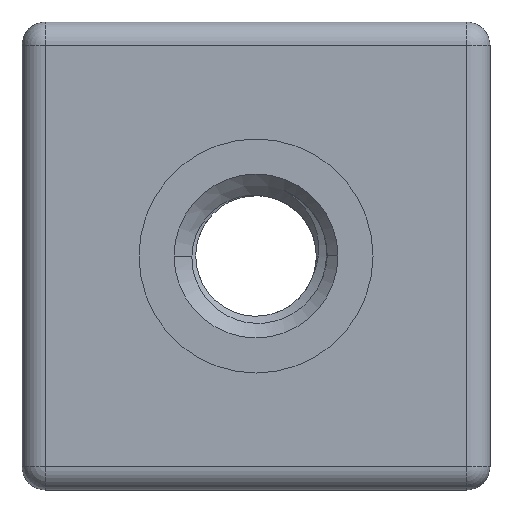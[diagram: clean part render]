
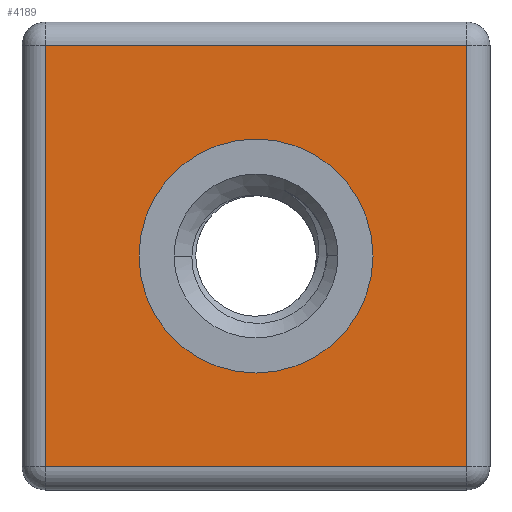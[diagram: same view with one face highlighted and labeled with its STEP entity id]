
A CAD part, front view. The second image highlights one B-rep face of the part: STEP entity #4189.
In plain terms, the highlighted planar face has unit normal (0, -1, 0).
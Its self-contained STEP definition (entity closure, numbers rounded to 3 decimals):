
#4 = AXIS2_PLACEMENT_3D ( 'NONE', #4763, #780, #1435 ) ;
#180 = VECTOR ( 'NONE', #2698, 1000. ) ;
#181 = LINE ( 'NONE', #1376, #4281 ) ;
#210 = ORIENTED_EDGE ( 'NONE', *, *, #4253, .T. ) ;
#243 = VECTOR ( 'NONE', #2050, 1000. ) ;
#530 = ORIENTED_EDGE ( 'NONE', *, *, #1928, .T. ) ;
#571 = CARTESIAN_POINT ( 'NONE',  ( -18., 0., -20. ) ) ;
#591 = EDGE_CURVE ( 'NONE', #1921, #2014, #3445, .T. ) ;
#641 = EDGE_CURVE ( 'NONE', #2535, #3560, #2278, .T. ) ;
#780 = DIRECTION ( 'NONE',  ( 0., 1., 0. ) ) ;
#1098 = CARTESIAN_POINT ( 'NONE',  ( -18., 0., -18. ) ) ;
#1217 = EDGE_CURVE ( 'NONE', #2014, #1921, #3029, .T. ) ;
#1271 = AXIS2_PLACEMENT_3D ( 'NONE', #4154, #4590, #1607 ) ;
#1376 = CARTESIAN_POINT ( 'NONE',  ( 20., 0., -18. ) ) ;
#1435 = DIRECTION ( 'NONE',  ( 0., 0., -1. ) ) ;
#1516 = CARTESIAN_POINT ( 'NONE',  ( 18., 0., 18. ) ) ;
#1606 = EDGE_CURVE ( 'NONE', #3560, #2157, #2846, .T. ) ;
#1607 = DIRECTION ( 'NONE',  ( 0., 0., -1. ) ) ;
#1653 = AXIS2_PLACEMENT_3D ( 'NONE', #4100, #2250, #3352 ) ;
#1654 = FACE_OUTER_BOUND ( 'NONE', #1783, .T. ) ;
#1747 = CARTESIAN_POINT ( 'NONE',  ( 10., 0., 0. ) ) ;
#1783 = EDGE_LOOP ( 'NONE', ( #530, #210, #4274, #2744 ) ) ;
#1921 = VERTEX_POINT ( 'NONE', #3597 ) ;
#1928 = EDGE_CURVE ( 'NONE', #2157, #3027, #181, .T. ) ;
#1970 = DIRECTION ( 'NONE',  ( 0., 0., 1. ) ) ;
#2014 = VERTEX_POINT ( 'NONE', #1747 ) ;
#2044 = DIRECTION ( 'NONE',  ( 1., 0., 0. ) ) ;
#2050 = DIRECTION ( 'NONE',  ( 0., 0., -1. ) ) ;
#2157 = VERTEX_POINT ( 'NONE', #1098 ) ;
#2250 = DIRECTION ( 'NONE',  ( 0., 1., 0. ) ) ;
#2278 = LINE ( 'NONE', #2984, #180 ) ;
#2326 = PLANE ( 'NONE',  #1271 ) ;
#2364 = CARTESIAN_POINT ( 'NONE',  ( -18., 0., 18. ) ) ;
#2535 = VERTEX_POINT ( 'NONE', #1516 ) ;
#2698 = DIRECTION ( 'NONE',  ( -1., 0., 0. ) ) ;
#2744 = ORIENTED_EDGE ( 'NONE', *, *, #1606, .T. ) ;
#2846 = LINE ( 'NONE', #571, #243 ) ;
#2984 = CARTESIAN_POINT ( 'NONE',  ( -20., 0., 18. ) ) ;
#3027 = VERTEX_POINT ( 'NONE', #4335 ) ;
#3029 = CIRCLE ( 'NONE', #4, 10. ) ;
#3066 = CARTESIAN_POINT ( 'NONE',  ( 18., 0., 20. ) ) ;
#3352 = DIRECTION ( 'NONE',  ( 0., 0., -1. ) ) ;
#3445 = CIRCLE ( 'NONE', #1653, 10. ) ;
#3560 = VERTEX_POINT ( 'NONE', #2364 ) ;
#3597 = CARTESIAN_POINT ( 'NONE',  ( -10., 0., 0. ) ) ;
#3813 = LINE ( 'NONE', #3066, #3975 ) ;
#3975 = VECTOR ( 'NONE', #1970, 1000. ) ;
#4100 = CARTESIAN_POINT ( 'NONE',  ( 0., 0., 0. ) ) ;
#4154 = CARTESIAN_POINT ( 'NONE',  ( 0., 0., 0. ) ) ;
#4189 = ADVANCED_FACE ( 'NONE', ( #1654, #4232 ), #2326, .T. ) ;
#4232 = FACE_BOUND ( 'NONE', #4685, .T. ) ;
#4253 = EDGE_CURVE ( 'NONE', #3027, #2535, #3813, .T. ) ;
#4274 = ORIENTED_EDGE ( 'NONE', *, *, #641, .T. ) ;
#4281 = VECTOR ( 'NONE', #2044, 1000. ) ;
#4335 = CARTESIAN_POINT ( 'NONE',  ( 18., 0., -18. ) ) ;
#4474 = ORIENTED_EDGE ( 'NONE', *, *, #591, .T. ) ;
#4590 = DIRECTION ( 'NONE',  ( 0., -1., 0. ) ) ;
#4652 = ORIENTED_EDGE ( 'NONE', *, *, #1217, .T. ) ;
#4685 = EDGE_LOOP ( 'NONE', ( #4474, #4652 ) ) ;
#4763 = CARTESIAN_POINT ( 'NONE',  ( 0., 0., 0. ) ) ;
